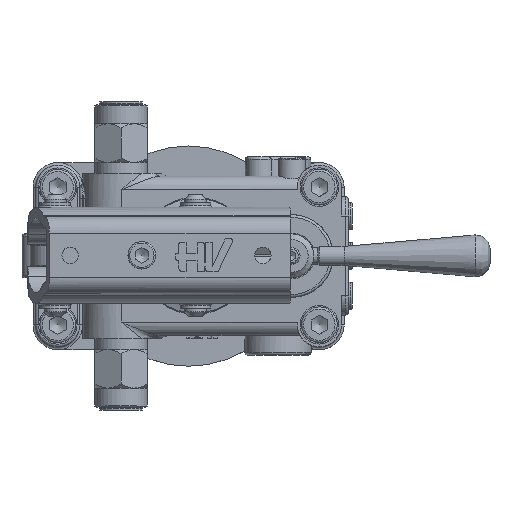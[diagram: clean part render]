
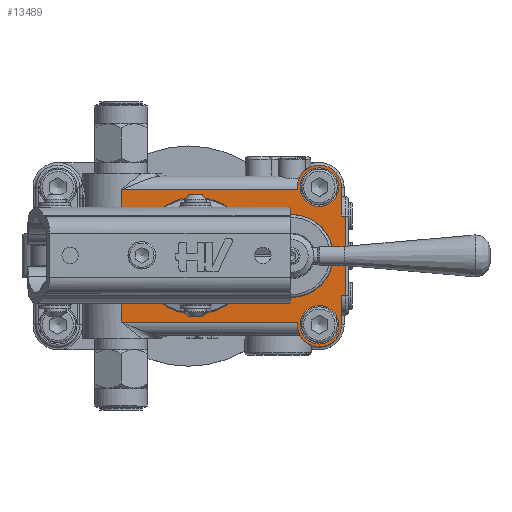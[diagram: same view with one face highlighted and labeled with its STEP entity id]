
A CAD part, top view. The second image highlights one B-rep face of the part: STEP entity #13489.
In plain terms, the highlighted planar face has unit normal (0, 0, 1).
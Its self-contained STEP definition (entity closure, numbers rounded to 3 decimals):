
#6772=CARTESIAN_POINT('',(32.,10.0,43.));
#6773=VERTEX_POINT('',#6772);
#6786=CARTESIAN_POINT('',(32.,23.878,43.));
#6787=VERTEX_POINT('',#6786);
#6788=CARTESIAN_POINT('',(32.0,10.,43.0));
#6789=DIRECTION('',(0.0,1.0,0.0));
#6790=VECTOR('',#6789,13.878);
#6791=LINE('',#6788,#6790);
#6792=EDGE_CURVE('',#6773,#6787,#6791,.T.);
#7284=CARTESIAN_POINT('',(32.,44.122,43.));
#7285=VERTEX_POINT('',#7284);
#7296=CARTESIAN_POINT('',(32.,58.,43.));
#7297=VERTEX_POINT('',#7296);
#7298=CARTESIAN_POINT('',(32.0,44.122,43.0));
#7299=DIRECTION('',(0.0,1.0,0.0));
#7300=VECTOR('',#7299,13.878);
#7301=LINE('',#7298,#7300);
#7302=EDGE_CURVE('',#7285,#7297,#7301,.T.);
#7954=CARTESIAN_POINT('',(111.,59.,43.));
#7955=VERTEX_POINT('',#7954);
#7956=CARTESIAN_POINT('',(104.,59.,43.));
#7957=DIRECTION('',(0.0,0.0,-1.0));
#7958=DIRECTION('',(1.0,0.0,0.0));
#7959=AXIS2_PLACEMENT_3D('',#7956,#7957,#7958);
#7960=CIRCLE('',#7959,7.);
#7961=EDGE_CURVE('',#7955,#7955,#7960,.T.);
#8002=CARTESIAN_POINT('',(111.0,9.,43.));
#8003=VERTEX_POINT('',#8002);
#8004=CARTESIAN_POINT('',(104.0,9.,43.));
#8005=DIRECTION('',(0.0,0.0,-1.0));
#8006=DIRECTION('',(1.0,0.0,0.0));
#8007=AXIS2_PLACEMENT_3D('',#8004,#8005,#8006);
#8008=CIRCLE('',#8007,7.);
#8009=EDGE_CURVE('',#8003,#8003,#8008,.T.);
#9349=CARTESIAN_POINT('',(112.,9.,43.));
#9350=VERTEX_POINT('',#9349);
#9357=CARTESIAN_POINT('',(96.0,9.,43.));
#9358=VERTEX_POINT('',#9357);
#9359=CARTESIAN_POINT('',(104.0,9.,43.));
#9360=DIRECTION('',(0.0,0.0,-1.0));
#9361=DIRECTION('',(-1.0,0.0,0.0));
#9362=AXIS2_PLACEMENT_3D('',#9359,#9360,#9361);
#9363=CIRCLE('',#9362,8.0);
#9364=EDGE_CURVE('',#9350,#9358,#9363,.T.);
#9492=CARTESIAN_POINT('',(83.0,23.802,43.));
#9493=VERTEX_POINT('',#9492);
#9501=CARTESIAN_POINT('',(83.0,44.198,43.));
#9502=VERTEX_POINT('',#9501);
#9503=CARTESIAN_POINT('',(94.,34.0,43.));
#9504=DIRECTION('',(0.0,0.0,-1.0));
#9505=DIRECTION('',(-1.0,0.0,0.0));
#9506=AXIS2_PLACEMENT_3D('',#9503,#9504,#9505);
#9507=CIRCLE('',#9506,15.0);
#9508=EDGE_CURVE('',#9502,#9493,#9507,.T.);
#9527=CARTESIAN_POINT('',(83.0,23.802,43.));
#9528=DIRECTION('',(0.0,1.0,0.0));
#9529=VECTOR('',#9528,20.396);
#9530=LINE('',#9527,#9529);
#9531=EDGE_CURVE('',#9493,#9502,#9530,.T.);
#9976=CARTESIAN_POINT('',(96.,59.,43.));
#9977=VERTEX_POINT('',#9976);
#9984=CARTESIAN_POINT('',(112.0,59.,43.));
#9985=VERTEX_POINT('',#9984);
#9986=CARTESIAN_POINT('',(104.,59.,43.));
#9987=DIRECTION('',(0.0,0.0,-1.0));
#9988=DIRECTION('',(1.0,0.0,0.0));
#9989=AXIS2_PLACEMENT_3D('',#9986,#9987,#9988);
#9990=CIRCLE('',#9989,8.0);
#9991=EDGE_CURVE('',#9977,#9985,#9990,.T.);
#10060=CARTESIAN_POINT('',(96.,58.,43.));
#10061=VERTEX_POINT('',#10060);
#10062=CARTESIAN_POINT('',(96.,58.,43.));
#10063=DIRECTION('',(-1.0,0.0,0.0));
#10064=VECTOR('',#10063,64.);
#10065=LINE('',#10062,#10064);
#10066=EDGE_CURVE('',#10061,#7297,#10065,.T.);
#11631=CARTESIAN_POINT('',(96.0,10.0,43.));
#11632=VERTEX_POINT('',#11631);
#11640=CARTESIAN_POINT('',(96.0,10.0,43.));
#11641=DIRECTION('',(-1.0,0.0,0.0));
#11642=VECTOR('',#11641,64.);
#11643=LINE('',#11640,#11642);
#11644=EDGE_CURVE('',#11632,#6773,#11643,.T.);
#12891=CARTESIAN_POINT('',(113.5,48.5,43.));
#12892=VERTEX_POINT('',#12891);
#12935=CARTESIAN_POINT('',(113.5,19.5,43.));
#12936=VERTEX_POINT('',#12935);
#12953=CARTESIAN_POINT('',(113.5,48.5,43.));
#12954=DIRECTION('',(0.0,-1.0,0.0));
#12955=VECTOR('',#12954,29.);
#12956=LINE('',#12953,#12955);
#12957=EDGE_CURVE('',#12892,#12936,#12956,.T.);
#13376=CARTESIAN_POINT('',(112.0,19.5,43.));
#13377=VERTEX_POINT('',#13376);
#13378=CARTESIAN_POINT('',(112.0,19.5,43.));
#13379=DIRECTION('',(1.0,0.0,0.0));
#13380=VECTOR('',#13379,1.5);
#13381=LINE('',#13378,#13380);
#13382=EDGE_CURVE('',#13377,#12936,#13381,.T.);
#13395=CARTESIAN_POINT('',(104.,34.,43.));
#13396=DIRECTION('',(0.0,0.0,1.0));
#13397=DIRECTION('',(1.0,0.0,0.0));
#13398=AXIS2_PLACEMENT_3D('',#13395,#13396,#13397);
#13399=PLANE('',#13398);
#13400=ORIENTED_EDGE('',*,*,#12957,.F.);
#13401=CARTESIAN_POINT('',(112.,48.5,43.));
#13402=VERTEX_POINT('',#13401);
#13403=CARTESIAN_POINT('',(112.,48.5,43.));
#13404=DIRECTION('',(1.0,0.0,0.0));
#13405=VECTOR('',#13404,1.5);
#13406=LINE('',#13403,#13405);
#13407=EDGE_CURVE('',#13402,#12892,#13406,.T.);
#13408=ORIENTED_EDGE('',*,*,#13407,.F.);
#13409=CARTESIAN_POINT('',(112.0,59.,43.));
#13410=DIRECTION('',(0.0,-1.0,0.0));
#13411=VECTOR('',#13410,10.5);
#13412=LINE('',#13409,#13411);
#13413=EDGE_CURVE('',#9985,#13402,#13412,.T.);
#13414=ORIENTED_EDGE('',*,*,#13413,.F.);
#13415=ORIENTED_EDGE('',*,*,#9991,.F.);
#13416=CARTESIAN_POINT('',(96.,58.,43.));
#13417=DIRECTION('',(0.0,1.0,0.0));
#13418=VECTOR('',#13417,1.);
#13419=LINE('',#13416,#13418);
#13420=EDGE_CURVE('',#10061,#9977,#13419,.T.);
#13421=ORIENTED_EDGE('',*,*,#13420,.F.);
#13422=ORIENTED_EDGE('',*,*,#10066,.T.);
#13423=ORIENTED_EDGE('',*,*,#7302,.F.);
#13424=CARTESIAN_POINT('',(33.732,41.0,43.));
#13425=VERTEX_POINT('',#13424);
#13426=CARTESIAN_POINT('',(33.732,41.0,43.));
#13427=CARTESIAN_POINT('',(33.732,41.528,43.));
#13428=CARTESIAN_POINT('',(33.438,42.767,43.));
#13429=CARTESIAN_POINT('',(32.582,43.719,43.));
#13430=CARTESIAN_POINT('',(32.,44.122,43.));
#13431=B_SPLINE_CURVE_WITH_KNOTS('',3,(#13426,#13427,#13428,#13429,#13430),.UNSPECIFIED.,.F.,.U.,(4,1,4),(2.696,2.855,3.066),.UNSPECIFIED.);
#13432=EDGE_CURVE('',#13425,#7285,#13431,.T.);
#13433=ORIENTED_EDGE('',*,*,#13432,.F.);
#13434=CARTESIAN_POINT('',(33.732,27.,43.));
#13435=VERTEX_POINT('',#13434);
#13436=CARTESIAN_POINT('',(33.732,27.,43.));
#13437=DIRECTION('',(0.0,1.0,0.0));
#13438=VECTOR('',#13437,14.);
#13439=LINE('',#13436,#13438);
#13440=EDGE_CURVE('',#13435,#13425,#13439,.T.);
#13441=ORIENTED_EDGE('',*,*,#13440,.F.);
#13442=CARTESIAN_POINT('',(32.,23.878,43.));
#13443=CARTESIAN_POINT('',(32.433,24.178,43.));
#13444=CARTESIAN_POINT('',(33.336,25.067,43.));
#13445=CARTESIAN_POINT('',(33.732,26.29,43.0));
#13446=CARTESIAN_POINT('',(33.732,27.,43.));
#13447=B_SPLINE_CURVE_WITH_KNOTS('',3,(#13442,#13443,#13444,#13445,#13446),.UNSPECIFIED.,.F.,.U.,(4,1,4),(2.696,2.854,3.065),.UNSPECIFIED.);
#13448=EDGE_CURVE('',#6787,#13435,#13447,.T.);
#13449=ORIENTED_EDGE('',*,*,#13448,.F.);
#13450=ORIENTED_EDGE('',*,*,#6792,.F.);
#13451=ORIENTED_EDGE('',*,*,#11644,.F.);
#13452=CARTESIAN_POINT('',(96.,9.,43.));
#13453=DIRECTION('',(0.0,1.0,0.0));
#13454=VECTOR('',#13453,1.);
#13455=LINE('',#13452,#13454);
#13456=EDGE_CURVE('',#9358,#11632,#13455,.T.);
#13457=ORIENTED_EDGE('',*,*,#13456,.F.);
#13458=ORIENTED_EDGE('',*,*,#9364,.F.);
#13459=CARTESIAN_POINT('',(112.,19.5,43.));
#13460=DIRECTION('',(0.0,-1.0,0.0));
#13461=VECTOR('',#13460,10.5);
#13462=LINE('',#13459,#13461);
#13463=EDGE_CURVE('',#13377,#9350,#13462,.T.);
#13464=ORIENTED_EDGE('',*,*,#13463,.F.);
#13465=ORIENTED_EDGE('',*,*,#13382,.T.);
#13466=EDGE_LOOP('',(#13400,#13408,#13414,#13415,#13421,#13422,#13423,#13433,#13441,#13449,#13450,#13451,#13457,#13458,#13464,#13465));
#13467=FACE_OUTER_BOUND('',#13466,.T.);
#13468=CARTESIAN_POINT('',(42.749,24.153,43.));
#13469=VERTEX_POINT('',#13468);
#13470=CARTESIAN_POINT('',(59.,34.,43.));
#13471=DIRECTION('',(0.,0.,-1.0));
#13472=DIRECTION('',(0.855,0.518,0.));
#13473=AXIS2_PLACEMENT_3D('',#13470,#13471,#13472);
#13474=CIRCLE('',#13473,19.002);
#13475=EDGE_CURVE('',#13469,#13469,#13474,.T.);
#13476=ORIENTED_EDGE('',*,*,#13475,.T.);
#13477=EDGE_LOOP('',(#13476));
#13478=FACE_BOUND('',#13477,.T.);
#13479=ORIENTED_EDGE('',*,*,#7961,.T.);
#13480=EDGE_LOOP('',(#13479));
#13481=FACE_BOUND('',#13480,.T.);
#13482=ORIENTED_EDGE('',*,*,#8009,.T.);
#13483=EDGE_LOOP('',(#13482));
#13484=FACE_BOUND('',#13483,.T.);
#13485=ORIENTED_EDGE('',*,*,#9508,.T.);
#13486=ORIENTED_EDGE('',*,*,#9531,.T.);
#13487=EDGE_LOOP('',(#13485,#13486));
#13488=FACE_BOUND('',#13487,.T.);
#13489=ADVANCED_FACE('',(#13467,#13478,#13481,#13484,#13488),#13399,.T.);
